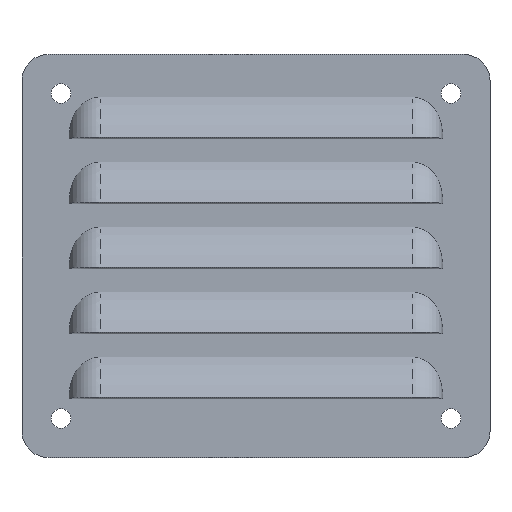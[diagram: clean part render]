
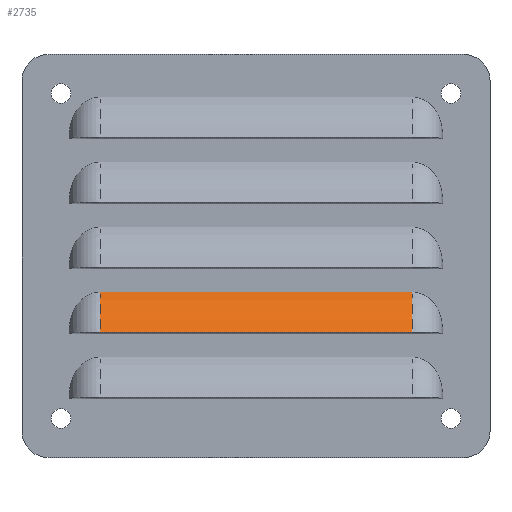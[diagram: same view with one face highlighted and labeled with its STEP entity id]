
A CAD part, top view. The second image highlights one B-rep face of the part: STEP entity #2735.
In plain terms, the highlighted cylindrical face has radius 20.015 mm (diameter 40.03 mm), a partial arc.
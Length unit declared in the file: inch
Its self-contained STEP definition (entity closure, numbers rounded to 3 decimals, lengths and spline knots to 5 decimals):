
#386=DIRECTION('',(1.,0.,0.));
#387=VECTOR('',#386,3.);
#388=CARTESIAN_POINT('',(-1.5,-0.3484,0.));
#389=LINE('',#388,#387);
#820=CARTESIAN_POINT('',(-1.5,-1.00934,-0.42907));
#821=DIRECTION('',(-1.,0.,0.));
#822=DIRECTION('',(0.,0.35,0.937));
#823=AXIS2_PLACEMENT_3D('',#820,#821,#822);
#825=CARTESIAN_POINT('',(-1.5,-0.73318,0.30896));
#894=CARTESIAN_POINT('',(1.5,-1.00934,-0.42907));
#895=DIRECTION('',(1.,0.,0.));
#896=DIRECTION('',(0.,0.839,0.545));
#897=AXIS2_PLACEMENT_3D('',#894,#895,#896);
#911=DIRECTION('',(1.,0.,0.));
#912=VECTOR('',#911,3.);
#913=CARTESIAN_POINT('',(-1.5,-0.73318,0.30896));
#914=LINE('',#913,#912);
#1544=VERTEX_POINT('',#825);
#1546=CARTESIAN_POINT('',(1.5,-0.73318,0.30896));
#1547=VERTEX_POINT('',#1546);
#1557=CARTESIAN_POINT('',(-1.5,-0.3484,0.));
#1558=CARTESIAN_POINT('',(1.5,-0.3484,0.));
#1559=VERTEX_POINT('',#1557);
#1560=VERTEX_POINT('',#1558);
#2722=CARTESIAN_POINT('',(2.,-1.00934,-0.42907));
#2723=DIRECTION('',(1.,0.,0.));
#2724=DIRECTION('',(0.,1.,0.));
#2725=AXIS2_PLACEMENT_3D('',#2722,#2723,#2724);
#2726=CYLINDRICAL_SURFACE('',#2725,0.788);
#2727=ORIENTED_EDGE('',*,*,#1890,.T.);
#2729=ORIENTED_EDGE('',*,*,#2728,.T.);
#2731=ORIENTED_EDGE('',*,*,#2730,.F.);
#2732=ORIENTED_EDGE('',*,*,#2714,.T.);
#2733=EDGE_LOOP('',(#2727,#2729,#2731,#2732));
#2734=FACE_OUTER_BOUND('',#2733,.F.);
#824=CIRCLE('',#823,0.788);
#898=CIRCLE('',#897,0.788);
#1890=EDGE_CURVE('',#1559,#1560,#389,.T.);
#2714=EDGE_CURVE('',#1544,#1559,#824,.T.);
#2728=EDGE_CURVE('',#1560,#1547,#898,.T.);
#2730=EDGE_CURVE('',#1544,#1547,#914,.T.);
#2735=ADVANCED_FACE('',(#2734),#2726,.T.);
